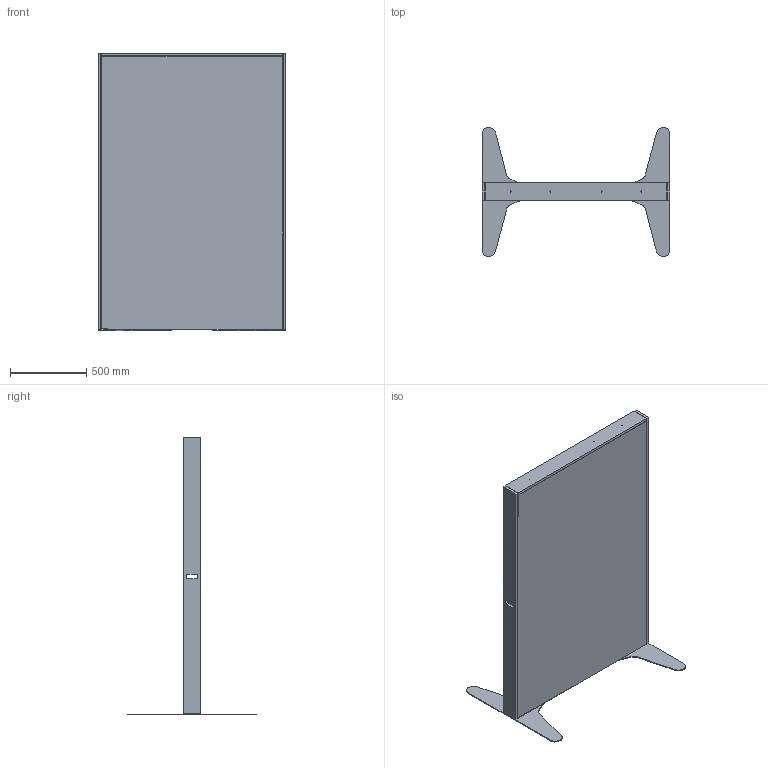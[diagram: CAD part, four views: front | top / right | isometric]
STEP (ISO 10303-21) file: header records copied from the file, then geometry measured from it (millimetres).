
FILE_DESCRIPTION(/* description */ (''),/* implementation_level */ '2;1');
FILE_NAME(/* name */ 'Studio Wall Vertical',/* time_stamp */ '2026-06-15T17:31:21+12:00',/* author */ (''),/* organization */ (''),/* preprocessor_version */ 'ST-DEVELOPER v19.2',/* originating_system */ 'Rhino 8.31',/* authorisation */ '');
FILE_SCHEMA (('CONFIG_CONTROL_DESIGN'));
Length unit declared in the file: millimetre
Products named in the file (1): Document
Bounding box: 1236 x 849.94 x 1827.8 mm (x, y, z)
Volume: 36855957.2 mm3; surface area: 5996584.9 mm2
Topology: 6 solids, 6 shells, 98 faces, 210 edges, 140 vertices
Faces by surface type: cylinder 48, plane 40, bspline 10
Entity records: 3268 total; most frequent: CARTESIAN_POINT 1226, ORIENTED_EDGE 420, DIRECTION 284, EDGE_CURVE 210, AXIS2_PLACEMENT_3D 186, VERTEX_POINT 140, EDGE_LOOP 134, ADVANCED_FACE 98
